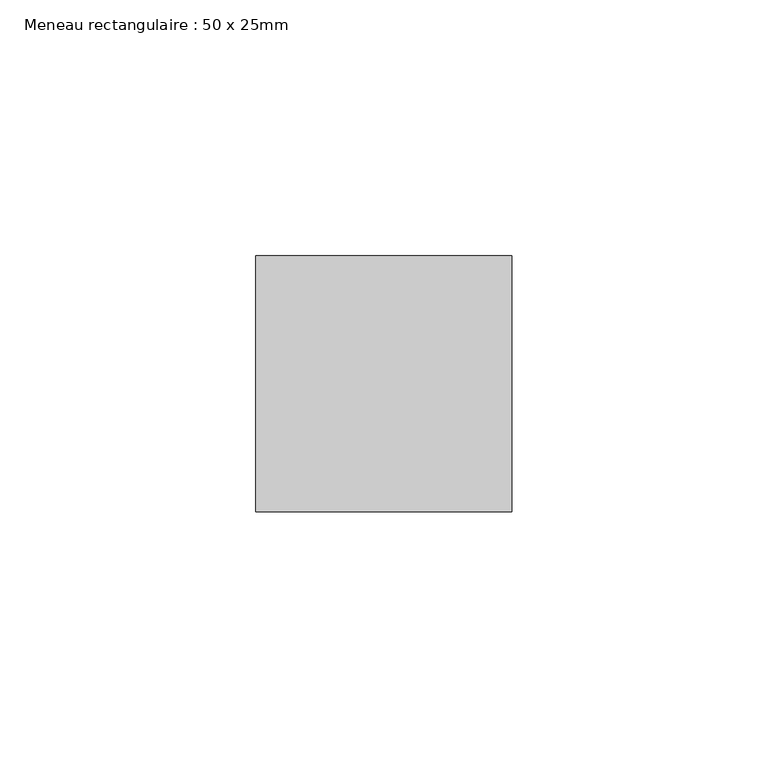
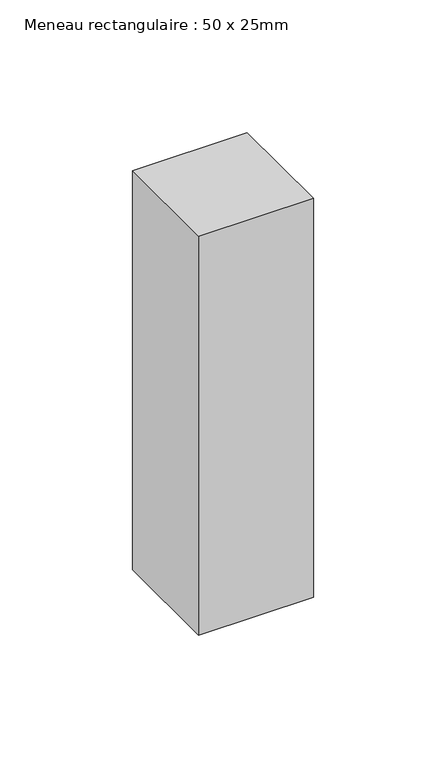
"""IFC4 building model written with IfcOpenShell, lengths in millimetres: member geometry, Meneau rectangulaire : 50 x 25mm."""

from ifc_helpers import new_model, si_unit, frame, origin, place, context, project, spatial, polyline, outline, extrude, source, transform, mapped, element, save


def meneau_rectangulaire_50_x_25mm_72c34c5e(model_context):
    return source(origin(), model_context, "Body", "SweptSolid", [
        extrude(outline(polyline([(25.0, 0.0), (25.0, -50.0), (-25.0, -50.0), (-25.0, 0.0), (25.0, 0.0)])), frame((0.0, 0.0, -183.7), z_axis=(0.0, 0.0, 1.0), x_axis=(1.0, 0.0, 0.0)), (0.0, 0.0, 1.0), 183.7),
    ])


if __name__ == "__main__":
    model = new_model("IFC4")
    model_context = context("Model", 3, world=origin())
    ifc_project = project(units=[si_unit("LENGTHUNIT", "METRE", prefix="MILLI")], contexts=[model_context])
    site = spatial("IfcSite", under=ifc_project)
    building = spatial("IfcBuilding", under=site)
    placement = place(None, origin())
    meneau_rectangulaire_50_x_25mm_shape = meneau_rectangulaire_50_x_25mm_72c34c5e(model_context)
    element("IfcMember", 1, ObjectType="Meneau rectangulaire : 50 x 25mm", at=placement, inside=building, context=model_context, shape_type="MappedRepresentation", body=[
        mapped(meneau_rectangulaire_50_x_25mm_shape, transform((0.0, 0.0, 0.0), x_axis=(1.0, 0.0, 0.0), y_axis=(0.0, 1.0, 0.0), z_axis=(0.0, 0.0, 1.0))),
    ])
    save(model, "model.ifc")
